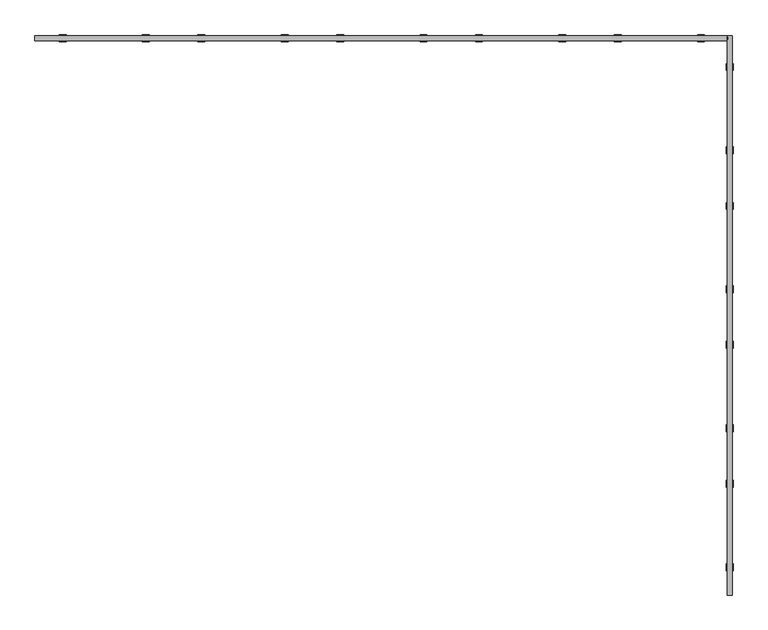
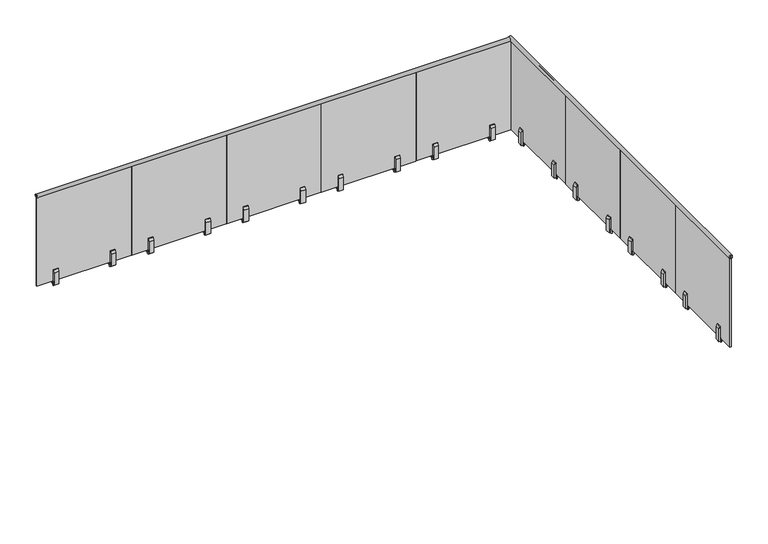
"""IFC4 building model written with IfcOpenShell, lengths in millimetres: railing geometry, VIVA-VISIO-Glass-Steel Surface Mount-Straight."""

from ifc_helpers import new_model, si_unit, point, frame, frame_2d, origin, origin_with_axes, place, context, project, spatial, polyline, circle_curve, trimmed, segment, composite_curve, outline, extrude, source, transform, mapped, element, save


def railing_b285644a(model_context):
    return source(origin(), model_context, "Body", "SweptSolid", [
        extrude(outline(composite_curve([segment(trimmed(circle_curve(frame_2d((-24105.2436699, 1065.6774252)), 3.175), [point((-24103.3386699, 1063.1374252))], [point((-24108.4186699, 1065.6774252))], False, "CARTESIAN"), True, "CONTINUOUS"), segment(polyline([(-24108.4186699, 1065.6774252), (-24108.4186699, 1090.215625), (-24121.1186699, 1090.215625), (-24121.1186699, 1065.7552844)]), True, "CONTINUOUS"), segment(trimmed(circle_curve(frame_2d((-24124.3324802, 1065.7552844)), 3.2138103), [point((-24121.1186699, 1065.7552844))], [point((-24126.2733682, 1063.193736))], False, "CARTESIAN"), True, "CONTINUOUS"), segment(trimmed(circle_curve(frame_2d((-24114.7686699, 1078.3774252)), 19.05), [point((-24126.2733682, 1063.193736))], [point((-24103.3386699, 1063.1374252))], False, "CARTESIAN"), True, "CONTINUOUS")], self_intersect=False)), frame((25788.5459111, 0.0, 0.0), z_axis=(1.0, 0.0, 0.0), x_axis=(0.0, 1.0, 0.0)), (0.0, 0.0, 1.0), 5092.7),
        extrude(outline(composite_curve([segment(trimmed(circle_curve(frame_2d((1078.3774252, 30900.2959111)), 19.05), [point((1063.1374252, 30911.7259111))], [point((1063.193736, 30888.7912127))], False, "CARTESIAN"), True, "CONTINUOUS"), segment(trimmed(circle_curve(frame_2d((1065.7552844, 30890.7321008)), 3.2138103), [point((1063.193736, 30888.7912127))], [point((1065.7552844, 30893.9459111))], False, "CARTESIAN"), True, "CONTINUOUS"), segment(polyline([(1065.7552844, 30893.9459111), (1090.215625, 30893.9459111), (1090.215625, 30906.6459111), (1065.6774252, 30906.6459111)]), True, "CONTINUOUS"), segment(trimmed(circle_curve(frame_2d((1065.6774252, 30909.8209111)), 3.175), [point((1065.6774252, 30906.6459111))], [point((1063.1374252, 30911.7259111))], False, "CARTESIAN"), True, "CONTINUOUS")], self_intersect=False)), frame((0.0, -28210.5186699, 0.0), z_axis=(0.0, 1.0, 0.0), x_axis=(0.0, 0.0, 1.0)), (0.0, 0.0, 1.0), 4114.8),
        extrude(outline(polyline([(30906.6459111, -27980.6486699), (30906.6459111, -28031.4486699), (30893.9459111, -28031.4486699), (30893.9459111, -27980.6486699), (30906.6459111, -27980.6486699)])), origin_with_axes(), (0.0, 0.0, 1.0), 50.8),
        extrude(outline(polyline([(14.2875, 30925.6959111), (153.9875, 30925.6959111), (180.975, 30914.5834111), (180.975, 30906.6459111), (14.2875, 30906.6459111), (14.2875, 30925.6959111)])), frame((0.0, -28031.4486699, 0.0), z_axis=(0.0, 1.0, 0.0), x_axis=(0.0, 0.0, 1.0)), (0.0, 0.0, 1.0), 50.8),
        extrude(outline(polyline([(14.2875, 30874.8959111), (14.2875, 30893.9459111), (180.975, 30893.9459111), (180.975, 30886.0084111), (153.9875, 30874.8959111), (14.2875, 30874.8959111)])), frame((0.0, -28031.4486699, 0.0), z_axis=(0.0, 1.0, 0.0), x_axis=(0.0, 0.0, 1.0)), (0.0, 0.0, 1.0), 50.8),
        extrude(outline(polyline([(30906.6459111, -27191.7267165), (30906.6459111, -28207.7267165), (30893.9459111, -28207.7267165), (30893.9459111, -27191.7267165), (30906.6459111, -27191.7267165)])), frame((0.0, 0.0, 50.8), z_axis=(0.0, 0.0, 1.0), x_axis=(1.0, 0.0, 0.0)), (0.0, 0.0, 1.0), 1041.2299252),
        extrude(outline(polyline([(30906.6459111, -27367.2386699), (30906.6459111, -27418.0386699), (30893.9459111, -27418.0386699), (30893.9459111, -27367.2386699), (30906.6459111, -27367.2386699)])), origin_with_axes(), (0.0, 0.0, 1.0), 50.8),
        extrude(outline(polyline([(14.2875, 30925.6959111), (153.9875, 30925.6959111), (180.975, 30914.5834111), (180.975, 30906.6459111), (14.2875, 30906.6459111), (14.2875, 30925.6959111)])), frame((0.0, -27418.0386699, 0.0), z_axis=(0.0, 1.0, 0.0), x_axis=(0.0, 0.0, 1.0)), (0.0, 0.0, 1.0), 50.8),
        extrude(outline(polyline([(14.2875, 30874.8959111), (14.2875, 30893.9459111), (180.975, 30893.9459111), (180.975, 30886.0084111), (153.9875, 30874.8959111), (14.2875, 30874.8959111)])), frame((0.0, -27418.0386699, 0.0), z_axis=(0.0, 1.0, 0.0), x_axis=(0.0, 0.0, 1.0)), (0.0, 0.0, 1.0), 50.8),
        extrude(outline(polyline([(30906.6459111, -26958.2986699), (30906.6459111, -27009.0986699), (30893.9459111, -27009.0986699), (30893.9459111, -26958.2986699), (30906.6459111, -26958.2986699)])), origin_with_axes(), (0.0, 0.0, 1.0), 50.8),
        extrude(outline(polyline([(14.2875, 30925.6959111), (153.9875, 30925.6959111), (180.975, 30914.5834111), (180.975, 30906.6459111), (14.2875, 30906.6459111), (14.2875, 30925.6959111)])), frame((0.0, -27009.0986699, 0.0), z_axis=(0.0, 1.0, 0.0), x_axis=(0.0, 0.0, 1.0)), (0.0, 0.0, 1.0), 50.8),
        extrude(outline(polyline([(14.2875, 30874.8959111), (14.2875, 30893.9459111), (180.975, 30893.9459111), (180.975, 30886.0084111), (153.9875, 30874.8959111), (14.2875, 30874.8959111)])), frame((0.0, -27009.0986699, 0.0), z_axis=(0.0, 1.0, 0.0), x_axis=(0.0, 0.0, 1.0)), (0.0, 0.0, 1.0), 50.8),
        extrude(outline(polyline([(30906.6459111, -26169.3767165), (30906.6459111, -27185.3767165), (30893.9459111, -27185.3767165), (30893.9459111, -26169.3767165), (30906.6459111, -26169.3767165)])), frame((0.0, 0.0, 50.8), z_axis=(0.0, 0.0, 1.0), x_axis=(1.0, 0.0, 0.0)), (0.0, 0.0, 1.0), 1041.2299252),
        extrude(outline(polyline([(30906.6459111, -26344.8886699), (30906.6459111, -26395.6886699), (30893.9459111, -26395.6886699), (30893.9459111, -26344.8886699), (30906.6459111, -26344.8886699)])), origin_with_axes(), (0.0, 0.0, 1.0), 50.8),
        extrude(outline(polyline([(14.2875, 30925.6959111), (153.9875, 30925.6959111), (180.975, 30914.5834111), (180.975, 30906.6459111), (14.2875, 30906.6459111), (14.2875, 30925.6959111)])), frame((0.0, -26395.6886699, 0.0), z_axis=(0.0, 1.0, 0.0), x_axis=(0.0, 0.0, 1.0)), (0.0, 0.0, 1.0), 50.8),
        extrude(outline(polyline([(14.2875, 30874.8959111), (14.2875, 30893.9459111), (180.975, 30893.9459111), (180.975, 30886.0084111), (153.9875, 30874.8959111), (14.2875, 30874.8959111)])), frame((0.0, -26395.6886699, 0.0), z_axis=(0.0, 1.0, 0.0), x_axis=(0.0, 0.0, 1.0)), (0.0, 0.0, 1.0), 50.8),
        extrude(outline(polyline([(30906.6459111, -25935.9486699), (30906.6459111, -25986.7486699), (30893.9459111, -25986.7486699), (30893.9459111, -25935.9486699), (30906.6459111, -25935.9486699)])), origin_with_axes(), (0.0, 0.0, 1.0), 50.8),
        extrude(outline(polyline([(14.2875, 30925.6959111), (153.9875, 30925.6959111), (180.975, 30914.5834111), (180.975, 30906.6459111), (14.2875, 30906.6459111), (14.2875, 30925.6959111)])), frame((0.0, -25986.7486699, 0.0), z_axis=(0.0, 1.0, 0.0), x_axis=(0.0, 0.0, 1.0)), (0.0, 0.0, 1.0), 50.8),
        extrude(outline(polyline([(14.2875, 30874.8959111), (14.2875, 30893.9459111), (180.975, 30893.9459111), (180.975, 30886.0084111), (153.9875, 30874.8959111), (14.2875, 30874.8959111)])), frame((0.0, -25986.7486699, 0.0), z_axis=(0.0, 1.0, 0.0), x_axis=(0.0, 0.0, 1.0)), (0.0, 0.0, 1.0), 50.8),
        extrude(outline(polyline([(30906.6459111, -25147.0267165), (30906.6459111, -26163.0267165), (30893.9459111, -26163.0267165), (30893.9459111, -25147.0267165), (30906.6459111, -25147.0267165)])), frame((0.0, 0.0, 50.8), z_axis=(0.0, 0.0, 1.0), x_axis=(1.0, 0.0, 0.0)), (0.0, 0.0, 1.0), 1041.2299252),
        extrude(outline(polyline([(30906.6459111, -25322.5386699), (30906.6459111, -25373.3386699), (30893.9459111, -25373.3386699), (30893.9459111, -25322.5386699), (30906.6459111, -25322.5386699)])), origin_with_axes(), (0.0, 0.0, 1.0), 50.8),
        extrude(outline(polyline([(14.2875, 30925.6959111), (153.9875, 30925.6959111), (180.975, 30914.5834111), (180.975, 30906.6459111), (14.2875, 30906.6459111), (14.2875, 30925.6959111)])), frame((0.0, -25373.3386699, 0.0), z_axis=(0.0, 1.0, 0.0), x_axis=(0.0, 0.0, 1.0)), (0.0, 0.0, 1.0), 50.8),
        extrude(outline(polyline([(14.2875, 30874.8959111), (14.2875, 30893.9459111), (180.975, 30893.9459111), (180.975, 30886.0084111), (153.9875, 30874.8959111), (14.2875, 30874.8959111)])), frame((0.0, -25373.3386699, 0.0), z_axis=(0.0, 1.0, 0.0), x_axis=(0.0, 0.0, 1.0)), (0.0, 0.0, 1.0), 50.8),
        extrude(outline(polyline([(30906.6459111, -24913.5986699), (30906.6459111, -24964.3986699), (30893.9459111, -24964.3986699), (30893.9459111, -24913.5986699), (30906.6459111, -24913.5986699)])), origin_with_axes(), (0.0, 0.0, 1.0), 50.8),
        extrude(outline(polyline([(14.2875, 30925.6959111), (153.9875, 30925.6959111), (180.975, 30914.5834111), (180.975, 30906.6459111), (14.2875, 30906.6459111), (14.2875, 30925.6959111)])), frame((0.0, -24964.3986699, 0.0), z_axis=(0.0, 1.0, 0.0), x_axis=(0.0, 0.0, 1.0)), (0.0, 0.0, 1.0), 50.8),
        extrude(outline(polyline([(14.2875, 30874.8959111), (14.2875, 30893.9459111), (180.975, 30893.9459111), (180.975, 30886.0084111), (153.9875, 30874.8959111), (14.2875, 30874.8959111)])), frame((0.0, -24964.3986699, 0.0), z_axis=(0.0, 1.0, 0.0), x_axis=(0.0, 0.0, 1.0)), (0.0, 0.0, 1.0), 50.8),
        extrude(outline(polyline([(30906.6459111, -24124.6767165), (30906.6459111, -25140.6767165), (30893.9459111, -25140.6767165), (30893.9459111, -24124.6767165), (30906.6459111, -24124.6767165)])), frame((0.0, 0.0, 50.8), z_axis=(0.0, 0.0, 1.0), x_axis=(1.0, 0.0, 0.0)), (0.0, 0.0, 1.0), 1041.2299252),
        extrude(outline(polyline([(30906.6459111, -24300.1886699), (30906.6459111, -24350.9886699), (30893.9459111, -24350.9886699), (30893.9459111, -24300.1886699), (30906.6459111, -24300.1886699)])), origin_with_axes(), (0.0, 0.0, 1.0), 50.8),
        extrude(outline(polyline([(14.2875, 30925.6959111), (153.9875, 30925.6959111), (180.975, 30914.5834111), (180.975, 30906.6459111), (14.2875, 30906.6459111), (14.2875, 30925.6959111)])), frame((0.0, -24350.9886699, 0.0), z_axis=(0.0, 1.0, 0.0), x_axis=(0.0, 0.0, 1.0)), (0.0, 0.0, 1.0), 50.8),
        extrude(outline(polyline([(14.2875, 30874.8959111), (14.2875, 30893.9459111), (180.975, 30893.9459111), (180.975, 30886.0084111), (153.9875, 30874.8959111), (14.2875, 30874.8959111)])), frame((0.0, -24350.9886699, 0.0), z_axis=(0.0, 1.0, 0.0), x_axis=(0.0, 0.0, 1.0)), (0.0, 0.0, 1.0), 50.8),
        extrude(outline(polyline([(30664.3299111, -24108.4186699), (30715.1299111, -24108.4186699), (30715.1299111, -24121.1186699), (30664.3299111, -24121.1186699), (30664.3299111, -24108.4186699)])), origin_with_axes(), (0.0, 0.0, 1.0), 50.8),
        extrude(outline(polyline([(-24089.3686699, 14.2875), (-24108.4186699, 14.2875), (-24108.4186699, 180.975), (-24100.4811699, 180.975), (-24089.3686699, 153.9875), (-24089.3686699, 14.2875)])), frame((30664.3299111, 0.0, 0.0), z_axis=(1.0, 0.0, 0.0), x_axis=(0.0, 1.0, 0.0)), (0.0, 0.0, 1.0), 50.8),
        extrude(outline(polyline([(-24140.1686699, 14.2875), (-24140.1686699, 153.9875), (-24129.0561699, 180.975), (-24121.1186699, 180.975), (-24121.1186699, 14.2875), (-24140.1686699, 14.2875)])), frame((30664.3299111, 0.0, 0.0), z_axis=(1.0, 0.0, 0.0), x_axis=(0.0, 1.0, 0.0)), (0.0, 0.0, 1.0), 50.8),
        extrude(outline(polyline([(29875.7889577, -24108.4186699), (30891.7889577, -24108.4186699), (30891.7889577, -24121.1186699), (29875.7889577, -24121.1186699), (29875.7889577, -24108.4186699)])), frame((0.0, 0.0, 50.8), z_axis=(0.0, 0.0, 1.0), x_axis=(1.0, 0.0, 0.0)), (0.0, 0.0, 1.0), 1041.2299252),
        extrude(outline(polyline([(30051.6819111, -24108.4186699), (30102.4819111, -24108.4186699), (30102.4819111, -24121.1186699), (30051.6819111, -24121.1186699), (30051.6819111, -24108.4186699)])), origin_with_axes(), (0.0, 0.0, 1.0), 50.8),
        extrude(outline(polyline([(-24089.3686699, 14.2875), (-24108.4186699, 14.2875), (-24108.4186699, 180.975), (-24100.4811699, 180.975), (-24089.3686699, 153.9875), (-24089.3686699, 14.2875)])), frame((30051.6819111, 0.0, 0.0), z_axis=(1.0, 0.0, 0.0), x_axis=(0.0, 1.0, 0.0)), (0.0, 0.0, 1.0), 50.8),
        extrude(outline(polyline([(-24140.1686699, 14.2875), (-24140.1686699, 153.9875), (-24129.0561699, 180.975), (-24121.1186699, 180.975), (-24121.1186699, 14.2875), (-24140.1686699, 14.2875)])), frame((30051.6819111, 0.0, 0.0), z_axis=(1.0, 0.0, 0.0), x_axis=(0.0, 1.0, 0.0)), (0.0, 0.0, 1.0), 50.8),
        extrude(outline(polyline([(29643.2499111, -24108.4186699), (29694.0499111, -24108.4186699), (29694.0499111, -24121.1186699), (29643.2499111, -24121.1186699), (29643.2499111, -24108.4186699)])), origin_with_axes(), (0.0, 0.0, 1.0), 50.8),
        extrude(outline(polyline([(-24089.3686699, 14.2875), (-24108.4186699, 14.2875), (-24108.4186699, 180.975), (-24100.4811699, 180.975), (-24089.3686699, 153.9875), (-24089.3686699, 14.2875)])), frame((29643.2499111, 0.0, 0.0), z_axis=(1.0, 0.0, 0.0), x_axis=(0.0, 1.0, 0.0)), (0.0, 0.0, 1.0), 50.8),
        extrude(outline(polyline([(-24140.1686699, 14.2875), (-24140.1686699, 153.9875), (-24129.0561699, 180.975), (-24121.1186699, 180.975), (-24121.1186699, 14.2875), (-24140.1686699, 14.2875)])), frame((29643.2499111, 0.0, 0.0), z_axis=(1.0, 0.0, 0.0), x_axis=(0.0, 1.0, 0.0)), (0.0, 0.0, 1.0), 50.8),
        extrude(outline(polyline([(28854.7089577, -24108.4186699), (29870.7089577, -24108.4186699), (29870.7089577, -24121.1186699), (28854.7089577, -24121.1186699), (28854.7089577, -24108.4186699)])), frame((0.0, 0.0, 50.8), z_axis=(0.0, 0.0, 1.0), x_axis=(1.0, 0.0, 0.0)), (0.0, 0.0, 1.0), 1041.2299252),
        extrude(outline(polyline([(29030.6019111, -24108.4186699), (29081.4019111, -24108.4186699), (29081.4019111, -24121.1186699), (29030.6019111, -24121.1186699), (29030.6019111, -24108.4186699)])), origin_with_axes(), (0.0, 0.0, 1.0), 50.8),
        extrude(outline(polyline([(-24089.3686699, 14.2875), (-24108.4186699, 14.2875), (-24108.4186699, 180.975), (-24100.4811699, 180.975), (-24089.3686699, 153.9875), (-24089.3686699, 14.2875)])), frame((29030.6019111, 0.0, 0.0), z_axis=(1.0, 0.0, 0.0), x_axis=(0.0, 1.0, 0.0)), (0.0, 0.0, 1.0), 50.8),
        extrude(outline(polyline([(-24140.1686699, 14.2875), (-24140.1686699, 153.9875), (-24129.0561699, 180.975), (-24121.1186699, 180.975), (-24121.1186699, 14.2875), (-24140.1686699, 14.2875)])), frame((29030.6019111, 0.0, 0.0), z_axis=(1.0, 0.0, 0.0), x_axis=(0.0, 1.0, 0.0)), (0.0, 0.0, 1.0), 50.8),
        extrude(outline(polyline([(28622.1699111, -24108.4186699), (28672.9699111, -24108.4186699), (28672.9699111, -24121.1186699), (28622.1699111, -24121.1186699), (28622.1699111, -24108.4186699)])), origin_with_axes(), (0.0, 0.0, 1.0), 50.8),
        extrude(outline(polyline([(-24089.3686699, 14.2875), (-24108.4186699, 14.2875), (-24108.4186699, 180.975), (-24100.4811699, 180.975), (-24089.3686699, 153.9875), (-24089.3686699, 14.2875)])), frame((28622.1699111, 0.0, 0.0), z_axis=(1.0, 0.0, 0.0), x_axis=(0.0, 1.0, 0.0)), (0.0, 0.0, 1.0), 50.8),
        extrude(outline(polyline([(-24140.1686699, 14.2875), (-24140.1686699, 153.9875), (-24129.0561699, 180.975), (-24121.1186699, 180.975), (-24121.1186699, 14.2875), (-24140.1686699, 14.2875)])), frame((28622.1699111, 0.0, 0.0), z_axis=(1.0, 0.0, 0.0), x_axis=(0.0, 1.0, 0.0)), (0.0, 0.0, 1.0), 50.8),
        extrude(outline(polyline([(27833.6289577, -24108.4186699), (28849.6289577, -24108.4186699), (28849.6289577, -24121.1186699), (27833.6289577, -24121.1186699), (27833.6289577, -24108.4186699)])), frame((0.0, 0.0, 50.8), z_axis=(0.0, 0.0, 1.0), x_axis=(1.0, 0.0, 0.0)), (0.0, 0.0, 1.0), 1041.2299252),
        extrude(outline(polyline([(28009.5219111, -24108.4186699), (28060.3219111, -24108.4186699), (28060.3219111, -24121.1186699), (28009.5219111, -24121.1186699), (28009.5219111, -24108.4186699)])), origin_with_axes(), (0.0, 0.0, 1.0), 50.8),
        extrude(outline(polyline([(-24089.3686699, 14.2875), (-24108.4186699, 14.2875), (-24108.4186699, 180.975), (-24100.4811699, 180.975), (-24089.3686699, 153.9875), (-24089.3686699, 14.2875)])), frame((28009.5219111, 0.0, 0.0), z_axis=(1.0, 0.0, 0.0), x_axis=(0.0, 1.0, 0.0)), (0.0, 0.0, 1.0), 50.8),
        extrude(outline(polyline([(-24140.1686699, 14.2875), (-24140.1686699, 153.9875), (-24129.0561699, 180.975), (-24121.1186699, 180.975), (-24121.1186699, 14.2875), (-24140.1686699, 14.2875)])), frame((28009.5219111, 0.0, 0.0), z_axis=(1.0, 0.0, 0.0), x_axis=(0.0, 1.0, 0.0)), (0.0, 0.0, 1.0), 50.8),
        extrude(outline(polyline([(27601.0899111, -24108.4186699), (27651.8899111, -24108.4186699), (27651.8899111, -24121.1186699), (27601.0899111, -24121.1186699), (27601.0899111, -24108.4186699)])), origin_with_axes(), (0.0, 0.0, 1.0), 50.8),
        extrude(outline(polyline([(-24089.3686699, 14.2875), (-24108.4186699, 14.2875), (-24108.4186699, 180.975), (-24100.4811699, 180.975), (-24089.3686699, 153.9875), (-24089.3686699, 14.2875)])), frame((27601.0899111, 0.0, 0.0), z_axis=(1.0, 0.0, 0.0), x_axis=(0.0, 1.0, 0.0)), (0.0, 0.0, 1.0), 50.8),
        extrude(outline(polyline([(-24140.1686699, 14.2875), (-24140.1686699, 153.9875), (-24129.0561699, 180.975), (-24121.1186699, 180.975), (-24121.1186699, 14.2875), (-24140.1686699, 14.2875)])), frame((27601.0899111, 0.0, 0.0), z_axis=(1.0, 0.0, 0.0), x_axis=(0.0, 1.0, 0.0)), (0.0, 0.0, 1.0), 50.8),
        extrude(outline(polyline([(26812.5489577, -24108.4186699), (27828.5489577, -24108.4186699), (27828.5489577, -24121.1186699), (26812.5489577, -24121.1186699), (26812.5489577, -24108.4186699)])), frame((0.0, 0.0, 50.8), z_axis=(0.0, 0.0, 1.0), x_axis=(1.0, 0.0, 0.0)), (0.0, 0.0, 1.0), 1041.2299252),
        extrude(outline(polyline([(26988.4419111, -24108.4186699), (27039.2419111, -24108.4186699), (27039.2419111, -24121.1186699), (26988.4419111, -24121.1186699), (26988.4419111, -24108.4186699)])), origin_with_axes(), (0.0, 0.0, 1.0), 50.8),
        extrude(outline(polyline([(-24089.3686699, 14.2875), (-24108.4186699, 14.2875), (-24108.4186699, 180.975), (-24100.4811699, 180.975), (-24089.3686699, 153.9875), (-24089.3686699, 14.2875)])), frame((26988.4419111, 0.0, 0.0), z_axis=(1.0, 0.0, 0.0), x_axis=(0.0, 1.0, 0.0)), (0.0, 0.0, 1.0), 50.8),
        extrude(outline(polyline([(-24140.1686699, 14.2875), (-24140.1686699, 153.9875), (-24129.0561699, 180.975), (-24121.1186699, 180.975), (-24121.1186699, 14.2875), (-24140.1686699, 14.2875)])), frame((26988.4419111, 0.0, 0.0), z_axis=(1.0, 0.0, 0.0), x_axis=(0.0, 1.0, 0.0)), (0.0, 0.0, 1.0), 50.8),
        extrude(outline(polyline([(26580.0099111, -24108.4186699), (26630.8099111, -24108.4186699), (26630.8099111, -24121.1186699), (26580.0099111, -24121.1186699), (26580.0099111, -24108.4186699)])), origin_with_axes(), (0.0, 0.0, 1.0), 50.8),
        extrude(outline(polyline([(-24089.3686699, 14.2875), (-24108.4186699, 14.2875), (-24108.4186699, 180.975), (-24100.4811699, 180.975), (-24089.3686699, 153.9875), (-24089.3686699, 14.2875)])), frame((26580.0099111, 0.0, 0.0), z_axis=(1.0, 0.0, 0.0), x_axis=(0.0, 1.0, 0.0)), (0.0, 0.0, 1.0), 50.8),
        extrude(outline(polyline([(-24140.1686699, 14.2875), (-24140.1686699, 153.9875), (-24129.0561699, 180.975), (-24121.1186699, 180.975), (-24121.1186699, 14.2875), (-24140.1686699, 14.2875)])), frame((26580.0099111, 0.0, 0.0), z_axis=(1.0, 0.0, 0.0), x_axis=(0.0, 1.0, 0.0)), (0.0, 0.0, 1.0), 50.8),
        extrude(outline(polyline([(25791.4689577, -24108.4186699), (26807.4689577, -24108.4186699), (26807.4689577, -24121.1186699), (25791.4689577, -24121.1186699), (25791.4689577, -24108.4186699)])), frame((0.0, 0.0, 50.8), z_axis=(0.0, 0.0, 1.0), x_axis=(1.0, 0.0, 0.0)), (0.0, 0.0, 1.0), 1041.2299252),
        extrude(outline(polyline([(25967.3619111, -24108.4186699), (26018.1619111, -24108.4186699), (26018.1619111, -24121.1186699), (25967.3619111, -24121.1186699), (25967.3619111, -24108.4186699)])), origin_with_axes(), (0.0, 0.0, 1.0), 50.8),
        extrude(outline(polyline([(-24089.3686699, 14.2875), (-24108.4186699, 14.2875), (-24108.4186699, 180.975), (-24100.4811699, 180.975), (-24089.3686699, 153.9875), (-24089.3686699, 14.2875)])), frame((25967.3619111, 0.0, 0.0), z_axis=(1.0, 0.0, 0.0), x_axis=(0.0, 1.0, 0.0)), (0.0, 0.0, 1.0), 50.8),
        extrude(outline(polyline([(-24140.1686699, 14.2875), (-24140.1686699, 153.9875), (-24129.0561699, 180.975), (-24121.1186699, 180.975), (-24121.1186699, 14.2875), (-24140.1686699, 14.2875)])), frame((25967.3619111, 0.0, 0.0), z_axis=(1.0, 0.0, 0.0), x_axis=(0.0, 1.0, 0.0)), (0.0, 0.0, 1.0), 50.8),
    ])


if __name__ == "__main__":
    model = new_model("IFC4")
    model_context = context("Model", 3, world=origin())
    ifc_project = project(units=[si_unit("LENGTHUNIT", "METRE", prefix="MILLI")], contexts=[model_context])
    site = spatial("IfcSite", under=ifc_project)
    building = spatial("IfcBuilding", under=site)
    placement = place(None, origin())
    railing_shape = railing_b285644a(model_context)
    element("IfcRailing", 1, ObjectType="VIVA-VISIO-Glass-Steel Surface Mount-Straight", at=placement, inside=building, context=model_context, shape_type="MappedRepresentation", body=[
        mapped(railing_shape, transform((0.0, 0.0, 0.0), x_axis=(1.0, 0.0, 0.0), y_axis=(0.0, 1.0, 0.0), z_axis=(0.0, 0.0, 1.0))),
    ])
    save(model, "model.ifc")
